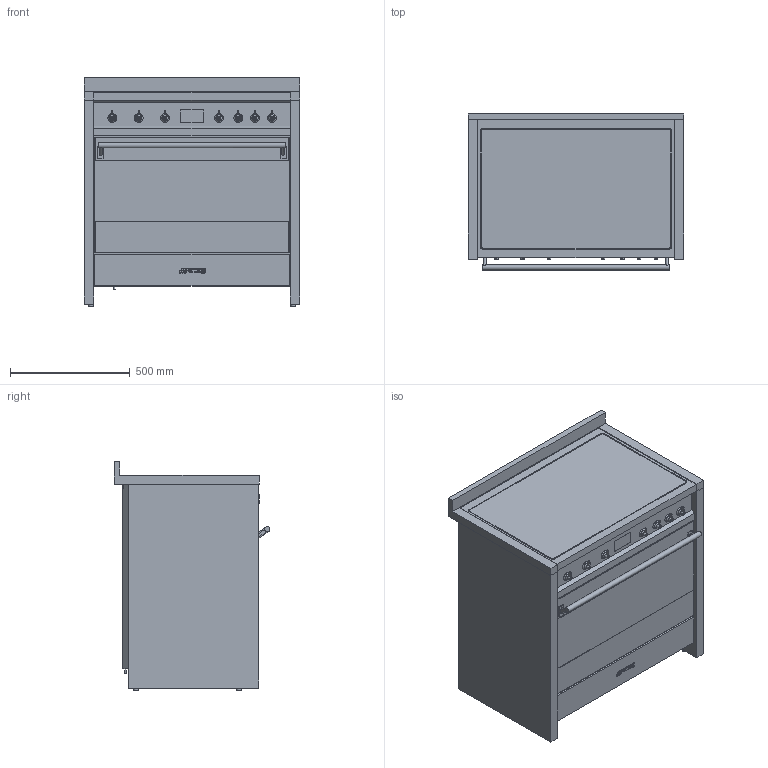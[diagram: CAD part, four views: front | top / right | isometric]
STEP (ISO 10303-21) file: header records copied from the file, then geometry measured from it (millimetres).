
FILE_DESCRIPTION(/* description */ (''),/* implementation_level */ '2;1');
FILE_NAME(/* name */ 'A1PYID-9.stp',/* time_stamp */ '2021-02-16T16:33:00+01:00',/* author */ (''),/* organization */ (''),/* preprocessor_version */ 'ST-DEVELOPER v16',/* originating_system */ 'SIEMENS PLM Software NX 11.0',/* authorisation */ '');
FILE_SCHEMA (('AUTOMOTIVE_DESIGN { 1 0 10303 214 3 1 1 1 }'));
Length unit declared in the file: millimetre
Products named in the file (1): Mart2A9097C6mmb1
Bounding box: 900 x 650.2 x 952.2 mm (x, y, z)
Volume: 399501957.6 mm3; surface area: 9524144 mm2
Topology: 36 solids, 36 shells, 383 faces, 813 edges, 535 vertices
Faces by surface type: plane 256, cylinder 91, cone 14, torus 11, extrusion 11
Full cylindrical faces by diameter (mm): 5 x9, 6 x1, 9.6 x6, 10 x2, 15 x7, 17 x7, 20 x11, 22 x1
Entity records: 10327 total; most frequent: CARTESIAN_POINT 1985, DIRECTION 1681, ORIENTED_EDGE 1468, EDGE_CURVE 734, AXIS2_PLACEMENT_3D 594, VERTEX_POINT 524, VECTOR 493, EDGE_LOOP 492
